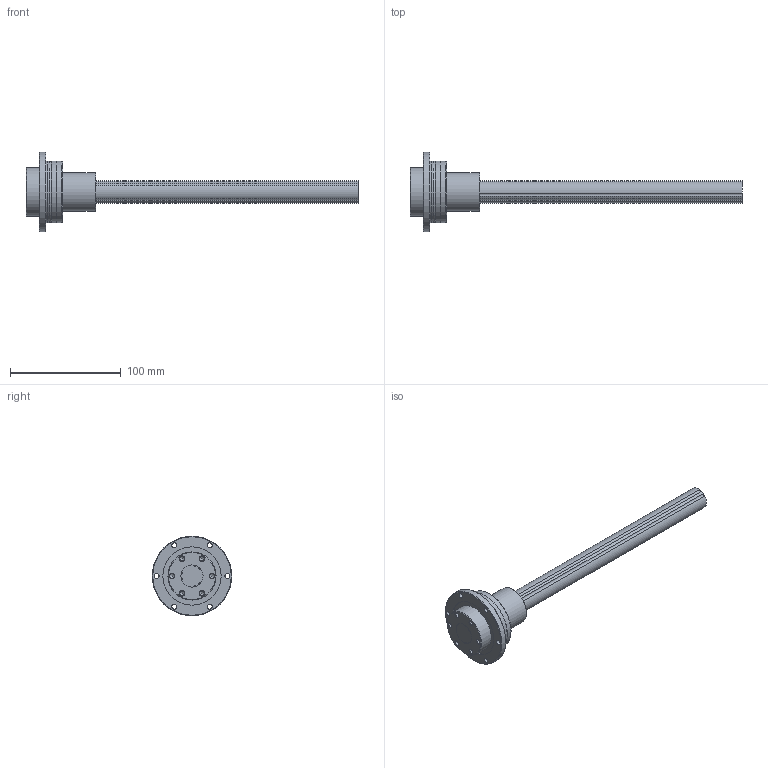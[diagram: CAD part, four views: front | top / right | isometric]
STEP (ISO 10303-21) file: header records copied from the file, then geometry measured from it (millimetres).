
FILE_DESCRIPTION(/* description */ ('STEP AP214'),/* implementation_level */ '2;1');
FILE_NAME(/* name */ 'LTR20A+300L(0_0)',/* time_stamp */ '2024-09-04T12:31:29+02:00',/* author */ ('License CC BY-ND 4.0'),/* organization */ ('CADENAS'),/* preprocessor_version */ 'ST-DEVELOPER v19.3',/* originating_system */ 'PARTsolutions',/* authorisation */ ' ');
FILE_SCHEMA (('AUTOMOTIVE_DESIGN {1 0 10303 214 3 1 1}'));
Length unit declared in the file: millimetre
Products named in the file (3): LTR20A+300L(0,0); LTR 20A300 LTRA Shaft; LTR 20A LTRA ACyl
Assembly tree (3 placements, depth 2):
  LTR20A+300L(0,0)
    LTR 20A300 LTRA Shaft
    LTR 20A LTRA ACyl  x2
Bounding box: 300 x 72 x 72 mm (x, y, z)
Volume: 260450.9 mm3; surface area: 64941.1 mm2
Topology: 3 solids, 3 shells, 120 faces, 278 edges, 182 vertices
Faces by surface type: cylinder 60, cone 34, plane 24, torus 2
Full cylindrical faces by diameter (mm): 1.5 x2, 4.134 x12, 4.5 x12, 20 x2, 35 x2, 42 x2, 43.5 x2, 50.4 x2, 52.727 x2, 55.4 x2, 55.5 x2, 56 x4, 72 x2
Entity records: 1710 total; most frequent: DIRECTION 318, CARTESIAN_POINT 269, ORIENTED_EDGE 190, AXIS2_PLACEMENT_3D 153, FACE_BOUND 138, EDGE_LOOP 132, EDGE_CURVE 95, VERTEX_POINT 89
